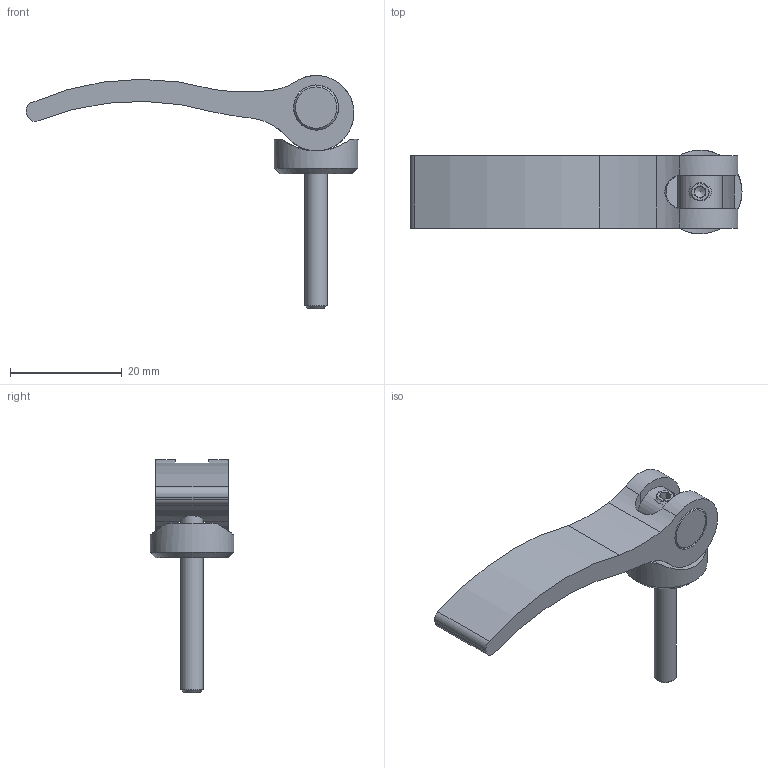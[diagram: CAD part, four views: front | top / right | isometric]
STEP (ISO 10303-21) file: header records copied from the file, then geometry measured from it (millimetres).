
FILE_DESCRIPTION(('STEP AP203'), '1');
FILE_NAME('À00360.11590415 _ Ýêñöåíòðèê 59 ìì', '', ('UNSPECIFIED'), ('UNSPECIFIED'), 'C3D Converter', 'C3D Toolkit', '');
FILE_SCHEMA(('CONFIG_CONTROL_DESIGN'));
Length unit declared in the file: millimetre
Products named in the file (5): А00360.59.03; А00360.59.02; А00360.59.01
Assembly tree (4 placements, depth 2):
  (unnamed)
    А00360.59.03
    А00360.59.02
    А00360.59.01
    (unnamed)
Bounding box: 59.48 x 14.99 x 41.75 mm (x, y, z)
Volume: 4953.1 mm3; surface area: 4087.3 mm2
Topology: 4 solids, 4 shells, 49 faces, 123 edges, 80 vertices
Faces by surface type: plane 24, cylinder 19, cone 6
Full cylindrical faces by diameter (mm): 3.242 x1, 4 x1, 5.5 x1, 8 x1, 8.1 x2, 15 x1
Entity records: 2552 total; most frequent: CARTESIAN_POINT 1037, DIRECTION 254, ORIENTED_EDGE 218, EDGE_CURVE 109, AXIS2_PLACEMENT_3D 105, VERTEX_POINT 79, EDGE_LOOP 68, FACE_BOUND 57
